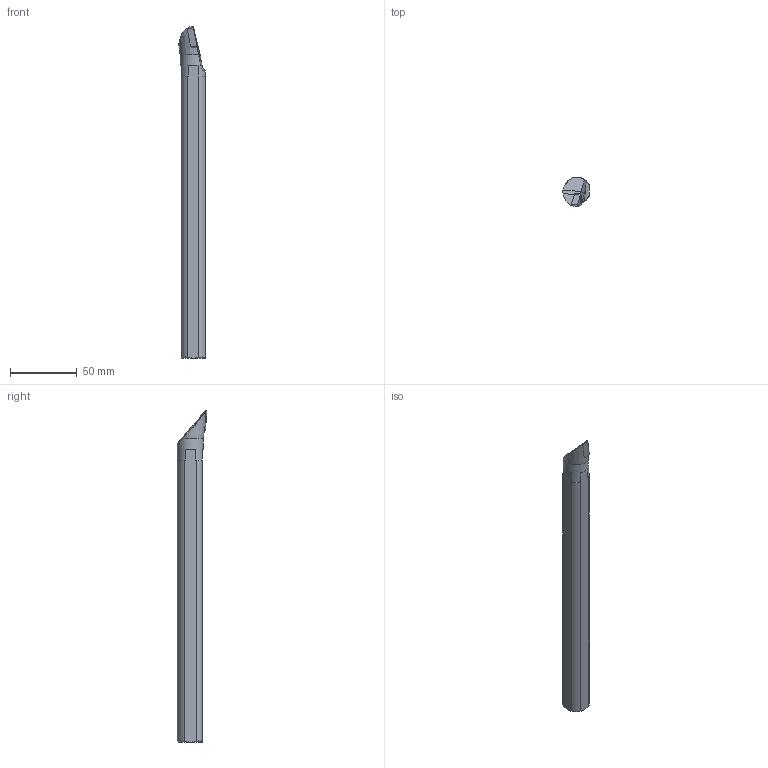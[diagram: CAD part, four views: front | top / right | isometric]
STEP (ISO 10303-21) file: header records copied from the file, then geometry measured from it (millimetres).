
FILE_DESCRIPTION(/* description */ (''),/* implementation_level */ '2;1');
FILE_NAME(/* name */ 'A20S-SVMBR16-HAAS.stp',/* time_stamp */ '2021-09-29T11:48:24+09:00',/* author */ (''),/* organization */ (''),/* preprocessor_version */ 'ST-DEVELOPER v11',/* originating_system */ 'SIEMENS UGS NX 6.0',/* authorisation */ '');
FILE_SCHEMA (('CONFIG_CONTROL_DESIGN'));
Length unit declared in the file: millimetre
Products named in the file (1): user080E6446
Bounding box: 19.64 x 22.38 x 249.61 mm (x, y, z)
Volume: 69380.3 mm3; surface area: 15806 mm2
Topology: 2 solids, 2 shells, 31 faces, 79 edges, 52 vertices
Faces by surface type: plane 15, cone 9, cylinder 6, revolution 1
Full cylindrical faces by diameter (mm): 6.2 x1
Entity records: 1048 total; most frequent: CARTESIAN_POINT 219, ORIENTED_EDGE 154, DIRECTION 153, EDGE_CURVE 77, AXIS2_PLACEMENT_3D 59, VERTEX_POINT 51, LINE 34, VECTOR 34
